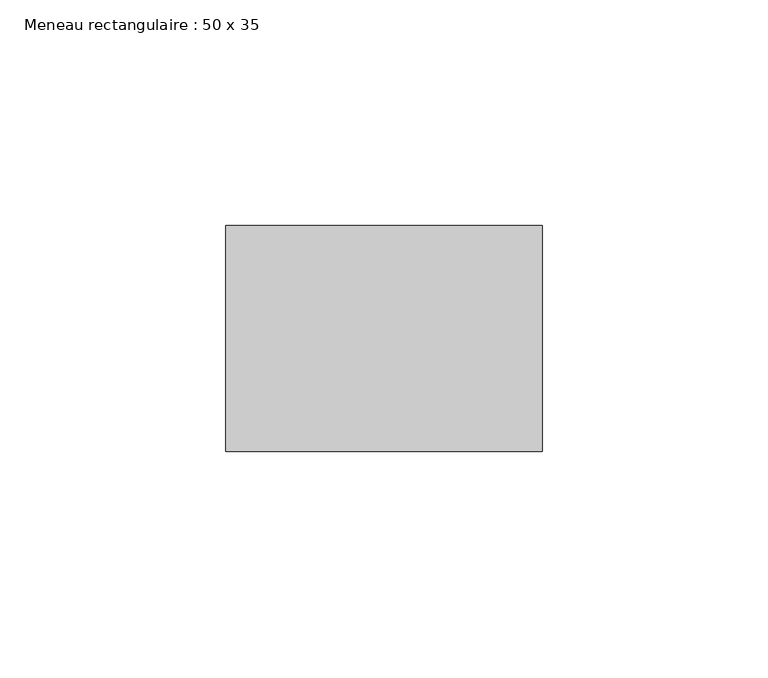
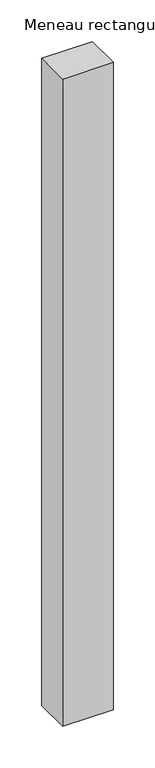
"""IFC4 building model written with IfcOpenShell, lengths in millimetres: member geometry, Meneau rectangulaire : 50 x 35."""

from ifc_helpers import new_model, si_unit, frame, origin, place, context, project, spatial, polyline, outline, extrude, source, transform, mapped, element, save


def meneau_rectangulaire_50_x_35_075f145a(model_context):
    return source(origin(), model_context, "Body", "SweptSolid", [
        extrude(outline(polyline([(0.0, 0.0), (0.0, -50.0), (-70.0, -50.0), (-70.0, 0.0), (0.0, 0.0)])), frame((0.0, 0.0, -948.0), z_axis=(0.0, 0.0, 1.0), x_axis=(1.0, 0.0, 0.0)), (0.0, 0.0, 1.0), 948.0),
    ])


if __name__ == "__main__":
    model = new_model("IFC4")
    model_context = context("Model", 3, world=origin())
    ifc_project = project(units=[si_unit("LENGTHUNIT", "METRE", prefix="MILLI")], contexts=[model_context])
    site = spatial("IfcSite", under=ifc_project)
    building = spatial("IfcBuilding", under=site)
    placement = place(None, origin())
    meneau_rectangulaire_50_x_35_shape = meneau_rectangulaire_50_x_35_075f145a(model_context)
    element("IfcMember", 1, ObjectType="Meneau rectangulaire : 50 x 35", at=placement, inside=building, context=model_context, shape_type="MappedRepresentation", body=[
        mapped(meneau_rectangulaire_50_x_35_shape, transform((0.0, 0.0, 0.0), x_axis=(1.0, 0.0, 0.0), y_axis=(0.0, 1.0, 0.0), z_axis=(0.0, 0.0, 1.0))),
    ])
    save(model, "model.ifc")
